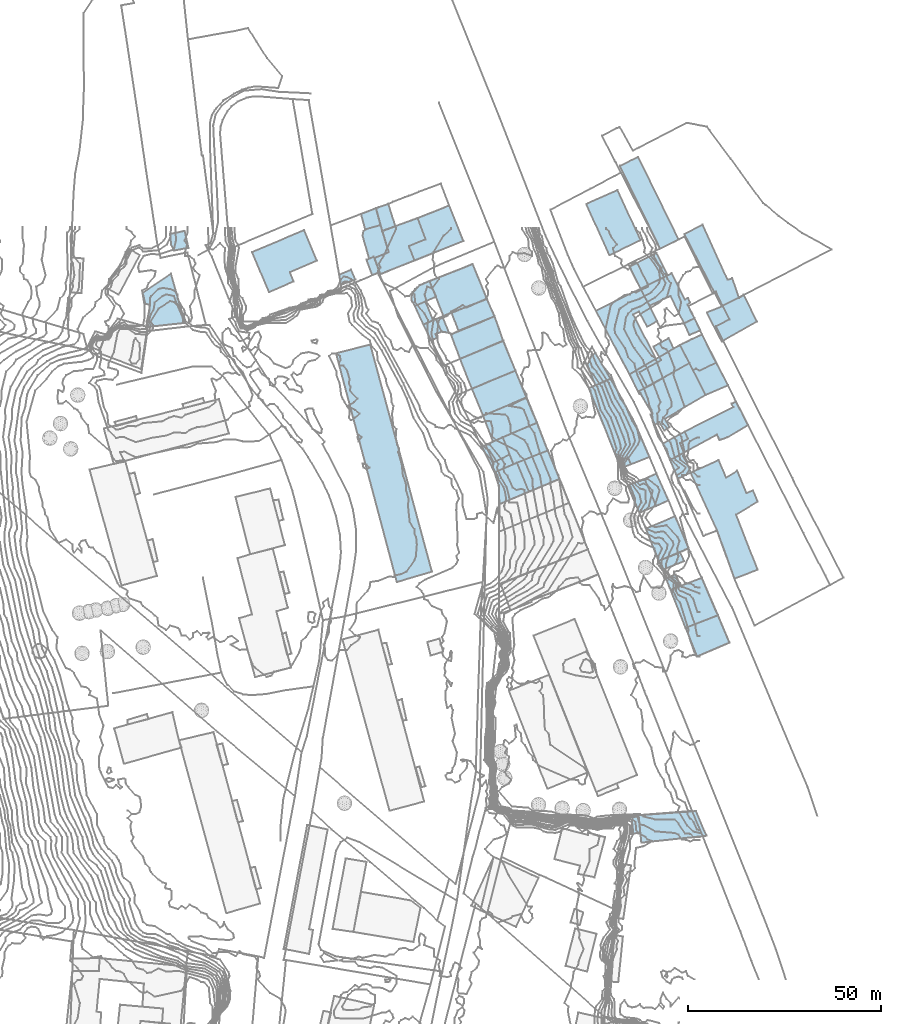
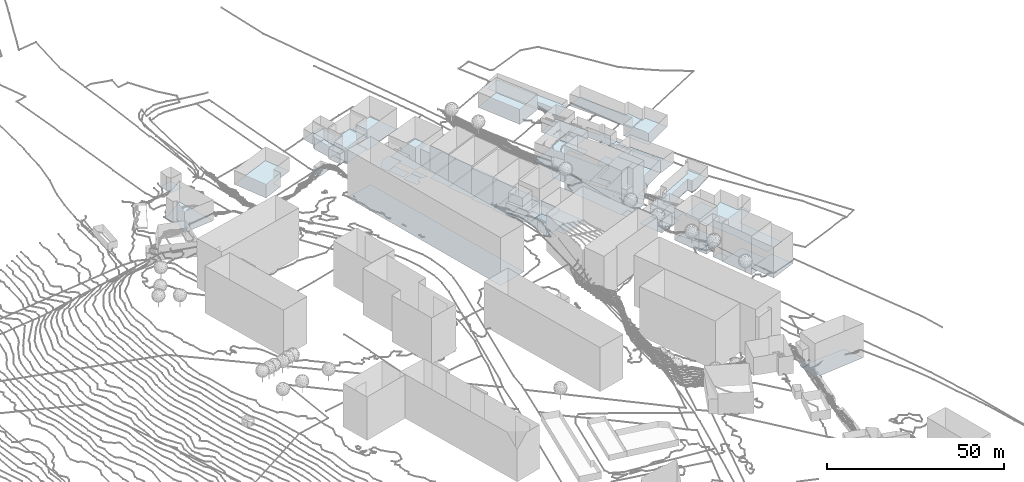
# Not in any storey, part 25 of 419: 54 footings.
"""IFC2X3 model written with IfcOpenShell, lengths in metres."""

from ifc_helpers import new_model, si_unit, frame, origin_with_axes, place, context, subcontext, project, faceted_brep, element, save


model = new_model("IFC2X3")

# Units and contexts
model_context = context("Model", 3, precision=1e-05, world=origin_with_axes())
body_context = subcontext(model_context, "Body", "Model", "MODEL_VIEW")
ifc_project = project(units=[si_unit("AREAUNIT", "SQUARE_METRE"), si_unit("LENGTHUNIT", "METRE")], contexts=[model_context])

# Footings
footing_1_placement = place(None, frame((892.1920204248, 1024.3976909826, 92.1908016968), z_axis=(0.0, 0.0, 1.0), x_axis=(1.0, 0.0, 0.0)))
element("IfcFooting", 1, at=footing_1_placement, Name="Sol 0", PredefinedType="STRIP_FOOTING", context=body_context, shape_type="Brep", body=[
    faceted_brep([(10.4, -0.7000000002, 0.0), (1.5, -4.2000000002, 0.0), (0.0, 0.0, 0.0), (11.2000000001, 10.2999999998, 0.0), (13.3, 4.7999999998, 0.0), (8.9, 3.0999999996, 0.0), (3.7000000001, 1.5, 0.0), (2.0, 7.0, 0.0)], [[[0, 1, 2]], [[3, 4, 5]], [[6, 7, 3]], [[0, 2, 6]], [[6, 3, 5]], [[5, 0, 6]]]),
])
footing_2_placement = place(None, frame((882.1920204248, 999.5976909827, 97.1549987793), z_axis=(0.0, 0.0, 1.0), x_axis=(1.0, 0.0, 0.0)))
element("IfcFooting", 2, at=footing_2_placement, Name="Sol 0", PredefinedType="STRIP_FOOTING", context=body_context, shape_type="Brep", body=[
    faceted_brep([(8.9, 2.2999999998, 0.0), (24.9, -56.7000000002, 0.0), (15.8, -59.4000000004, 0.0), (0.0, 0.0, 0.0)], [[[0, 1, 2]], [[2, 3, 0]]]),
])
footing_3_placement = place(None, frame((947.4920204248, 996.6976909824, 83.0450018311), z_axis=(0.0, 0.0, 1.0), x_axis=(1.0, 0.0, 0.0)))
element("IfcFooting", 3, at=footing_3_placement, Name="Sol 0", PredefinedType="STRIP_FOOTING", context=body_context, shape_type="Brep", body=[
    faceted_brep([(6.0, -3.7000000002, 0.0), (2.1, -5.3999999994, 0.0), (0.0, 0.0, 0.0), (1.1, 2.4000000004, 0.0), (2.1, 3.0, 0.0)], [[[0, 1, 2]], [[3, 4, 0]], [[0, 2, 3]]]),
])
footing_4_placement = place(None, frame((962.6920204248, 954.0976909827, 81.8764016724), z_axis=(0.0, 0.0, 1.0), x_axis=(1.0, 0.0, 0.0)))
element("IfcFooting", 4, at=footing_4_placement, Name="Sol 0", PredefinedType="STRIP_FOOTING", context=body_context, shape_type="Brep", body=[
    faceted_brep([(0.0, 0.0, 0.0), (7.6, 3.2000000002, 0.0), (11.1, -5.1000000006, 0.0), (3.3, -8.4000000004, 0.0)], [[[0, 1, 2]], [[2, 3, 0]]]),
])
footing_5_placement = place(None, frame((974.2920204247, 968.5976909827, 77.5850028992), z_axis=(0.0, 0.0, 1.0), x_axis=(1.0, 0.0, 0.0)))
element("IfcFooting", 5, at=footing_5_placement, Name="Sol 0", PredefinedType="STRIP_FOOTING", context=body_context, shape_type="Brep", body=[
    faceted_brep([(11.8, -10.9000000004, 0.0), (17.4, -25.2000000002, 0.0), (11.4, -27.5, 0.0), (16.2000000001, -4.6000000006, 0.0), (17.4, -7.5, 0.0), (9.2000000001, -1.2999999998, 0.0), (12.1000000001, 0.5, 0.0), (14.5, -5.2999999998, 0.0), (0.0, 0.0, 0.0), (7.3, 3.2999999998, 0.0), (6.9, -15.0, 0.0)], [[[0, 1, 2]], [[3, 4, 0]], [[5, 6, 7]], [[8, 9, 5]], [[0, 2, 10]], [[7, 3, 0]], [[8, 5, 7]], [[0, 10, 8]], [[8, 7, 0]]]),
])
footing_6_placement = place(None, frame((912.0920204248, 1004.4976909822, 90.4650001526), z_axis=(0.0, 0.0, 1.0), x_axis=(1.0, 0.0, 0.0)))
element("IfcFooting", 6, at=footing_6_placement, Name="Sol 0", PredefinedType="STRIP_FOOTING", context=body_context, shape_type="Brep", body=[
    faceted_brep([(13.5, -1.5999999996, 0.0), (2.3, -6.2999999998, 0.0), (0.0, 0.0, 0.0), (11.3, 4.7000000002, 0.0)], [[[0, 1, 2]], [[2, 3, 0]]]),
])
footing_7_placement = place(None, frame((912.1920204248, 1010.1976909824, 90.6355996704), z_axis=(0.0, 0.0, 1.0), x_axis=(1.0, 0.0, 0.0)))
element("IfcFooting", 7, at=footing_7_placement, Name="Sol 0", PredefinedType="STRIP_FOOTING", context=body_context, shape_type="Brep", body=[
    faceted_brep([(9.2000000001, 3.5, 0.0), (11.2000000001, -1.0, 0.0), (1.8, -4.7000000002, 0.0), (0.0, 0.0, 0.0)], [[[0, 1, 2]], [[2, 3, 0]]]),
])
footing_8_placement = place(None, frame((906.4920204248, 1018.3976909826, 90.8884008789), z_axis=(0.0, 0.0, 1.0), x_axis=(1.0, 0.0, 0.0)))
element("IfcFooting", 8, at=footing_8_placement, Name="Sol 0", PredefinedType="STRIP_FOOTING", context=body_context, shape_type="Brep", body=[
    faceted_brep([(11.2, 4.4000000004, 0.0), (14.9, -4.7000000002, 0.0), (3.6, -9.0999999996, 0.0), (0.0, 0.0, 0.0)], [[[0, 1, 2]], [[2, 3, 0]]]),
])
footing_9_placement = place(None, frame((888.6920204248, 1035.7976909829, 93.0879974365), z_axis=(0.0, 0.0, 1.0), x_axis=(1.0, 0.0, 0.0)))
element("IfcFooting", 9, at=footing_9_placement, Name="Sol 0", PredefinedType="STRIP_FOOTING", context=body_context, shape_type="Brep", body=[
    faceted_brep([(5.1, -2.9000000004, 0.0), (1.1, -4.0, 0.0), (0.0, 0.0, 0.0), (3.9, 1.5, 0.0)], [[[0, 1, 2]], [[2, 3, 0]]]),
])
footing_10_placement = place(None, frame((964.5920204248, 1001.2976909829, 78.8149993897), z_axis=(0.0, 0.0, 1.0), x_axis=(1.0, 0.0, 0.0)))
element("IfcFooting", 10, at=footing_10_placement, Name="Sol 0", PredefinedType="STRIP_FOOTING", context=body_context, shape_type="Brep", body=[
    faceted_brep([(4.0, 2.1999999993, 0.0), (5.3, -0.5, 0.0), (1.6, -2.6000000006, 0.0), (0.0, 0.0, 0.0)], [[[0, 1, 2]], [[2, 3, 0]]]),
])
footing_11_placement = place(None, frame((889.0920204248, 1030.1976909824, 92.8774974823), z_axis=(0.0, 0.0, 1.0), x_axis=(1.0, 0.0, 0.0)))
element("IfcFooting", 11, at=footing_11_placement, Name="Sol 0", PredefinedType="STRIP_FOOTING", context=body_context, shape_type="Brep", body=[
    faceted_brep([(6.8, -4.2999999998, 0.0), (3.1, -5.7999999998, 0.0), (2.9, -5.5, 0.0), (0.7, 1.6000000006, 0.0), (4.7, 2.7000000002, 0.0), (0.0, 0.0, 0.0), (0.2, 1.1000000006, 0.0), (1.7, -6.0, 0.0)], [[[0, 1, 2]], [[3, 4, 0]], [[5, 6, 3]], [[2, 7, 5]], [[3, 0, 2]], [[2, 5, 3]]]),
])
footing_12_placement = place(None, frame((892.5920204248, 1037.2976909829, 92.9800033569), z_axis=(0.0, 0.0, 1.0), x_axis=(1.0, 0.0, 0.0)))
element("IfcFooting", 12, at=footing_12_placement, Name="Sol 0", PredefinedType="STRIP_FOOTING", context=body_context, shape_type="Brep", body=[
    faceted_brep([(5.0, -4.7000000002, 0.0), (1.6, -5.9000000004, 0.0), (0.0, 0.0, 0.0), (3.2, 1.0999999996, 0.0)], [[[0, 1, 2]], [[2, 3, 0]]]),
])
footing_13_placement = place(None, frame((971.4920204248, 1001.7976909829, 78.444997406), z_axis=(0.0, 0.0, 1.0), x_axis=(1.0, 0.0, 0.0)))
element("IfcFooting", 13, at=footing_13_placement, Name="Sol 0", PredefinedType="STRIP_FOOTING", context=body_context, shape_type="Brep", body=[
    faceted_brep([(12.5, -10.5, 0.0), (6.7, -13.0, 0.0), (3.4, -6.5, 0.0), (0.0, 0.0, 0.0), (5.7999999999, 2.6999999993, 0.0)], [[[0, 1, 2]], [[3, 4, 0]], [[0, 2, 3]]]),
])
footing_14_placement = place(None, frame((957.9920204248, 965.2976909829, 82.3867994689), z_axis=(0.0, 0.0, 1.0), x_axis=(1.0, 0.0, 0.0)))
element("IfcFooting", 14, at=footing_14_placement, Name="Sol 0", PredefinedType="STRIP_FOOTING", context=body_context, shape_type="Brep", body=[
    faceted_brep([(0.0, 0.0, 0.0), (4.4, 1.6999999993, 0.0), (7.2999999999, -5.3000000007, 0.0), (3.0, -7.1000000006, 0.0)], [[[0, 1, 2]], [[2, 3, 0]]]),
])
footing_15_placement = place(None, frame((914.3920204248, 998.1976909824, 90.1960023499), z_axis=(0.0, 0.0, 1.0), x_axis=(1.0, 0.0, 0.0)))
element("IfcFooting", 15, at=footing_15_placement, Name="Sol 0", PredefinedType="STRIP_FOOTING", context=body_context, shape_type="Brep", body=[
    faceted_brep([(14.3999999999, -3.0999999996, 0.0), (3.1, -7.7999999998, 0.0), (0.0, 0.0, 0.0), (11.2, 4.7000000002, 0.0)], [[[0, 1, 2]], [[2, 3, 0]]]),
])
footing_16_placement = place(None, frame((972.9920204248, 928.2976909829, 84.2059982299), z_axis=(0.0, 0.0, 1.0), x_axis=(1.0, 0.0, 0.0)))
element("IfcFooting", 16, at=footing_16_placement, Name="Sol 0", PredefinedType="STRIP_FOOTING", context=body_context, shape_type="Brep", body=[
    faceted_brep([(0.0, 0.0, 0.0), (8.4, 3.2999999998, 0.0), (11.4, -3.8000000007, 0.0), (3.0, -7.4000000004, 0.0)], [[[0, 1, 2]], [[2, 3, 0]]]),
])
footing_17_placement = place(None, frame((882.9920204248, 1019.9976909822, 93.1930023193), z_axis=(0.0, 0.0, 1.0), x_axis=(1.0, 0.0, 0.0)))
element("IfcFooting", 17, at=footing_17_placement, Name="Sol 0", PredefinedType="STRIP_FOOTING", context=body_context, shape_type="Brep", body=[
    faceted_brep([(4.2, -1.1999999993, 0.0), (0.5, -2.5999999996, 0.0), (0.0, 0.0, 0.0), (3.1, 1.3000000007, 0.0)], [[[0, 1, 2]], [[2, 3, 0]]]),
])
footing_18_placement = place(None, frame((972.6920204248, 1030.5976909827, 78.3390022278), z_axis=(0.0, 0.0, 1.0), x_axis=(1.0, 0.0, 0.0)))
element("IfcFooting", 18, at=footing_18_placement, Name="Sol 0", PredefinedType="STRIP_FOOTING", context=body_context, shape_type="Brep", body=[
    faceted_brep([(9.7000000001, -27.9000000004, 0.0), (5.8, -20.4000000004, 0.0), (9.7000000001, -18.7999999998, 0.0), (15.4, -15.7999999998, 0.0), (18.8, -22.7000000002, 0.0), (11.2000000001, -11.9000000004, 0.0), (12.4, -11.5, 0.0), (14.2000000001, -16.6000000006, 0.0), (0.0, 0.0, 0.0), (4.7000000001, 2.3999999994, 0.0)], [[[0, 1, 2]], [[3, 4, 0]], [[5, 6, 7]], [[8, 9, 5]], [[7, 3, 0]], [[8, 5, 7]], [[7, 0, 2]], [[2, 8, 7]]]),
])
footing_19_placement = place(None, frame((961.2920204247, 1016.3976909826, 78.4847021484), z_axis=(0.0, 0.0, 1.0), x_axis=(1.0, 0.0, 0.0)))
element("IfcFooting", 19, at=footing_19_placement, Name="Sol 0", PredefinedType="STRIP_FOOTING", context=body_context, shape_type="Brep", body=[
    faceted_brep([(12.2000000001, -4.0999999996, 0.0), (14.0, -7.7000000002, 0.0), (11.3, -9.0, 0.0), (12.3, -2.4000000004, 0.0), (12.8, -3.5999999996, 0.0), (0.0, 0.0, 0.0), (8.1000000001, 4.0, 0.0), (11.5, -2.7999999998, 0.0), (7.8, -1.9000000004, 0.0), (2.3, -4.4000000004, 0.0)], [[[0, 1, 2]], [[3, 4, 0]], [[5, 6, 7]], [[8, 9, 5]], [[0, 2, 8]], [[7, 3, 0]], [[8, 5, 7]], [[7, 0, 8]]]),
])
footing_20_placement = place(None, frame((921.0920204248, 975.7976909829, 91.6154002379), z_axis=(0.0, 0.0, 1.0), x_axis=(1.0, 0.0, 0.0)))
element("IfcFooting", 20, at=footing_20_placement, Name="Sol 0", PredefinedType="STRIP_FOOTING", context=body_context, shape_type="Brep", body=[
    faceted_brep([(4.4, 2.0, 0.0), (6.2, -2.5, 0.0), (2.0, -4.5, 0.0), (0.0, 0.0, 0.0)], [[[0, 1, 2]], [[2, 3, 0]]]),
])
footing_21_placement = place(None, frame((908.1920204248, 1008.4976909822, 90.8799972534), z_axis=(0.0, 0.0, 1.0), x_axis=(1.0, 0.0, 0.0)))
element("IfcFooting", 21, at=footing_21_placement, Name="Sol 0", PredefinedType="STRIP_FOOTING", context=body_context, shape_type="Brep", body=[
    faceted_brep([(3.4, -3.5999999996, 0.0), (1.4, -3.2999999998, 0.0), (0.0, 0.0, 0.0), (1.6, 0.7000000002, 0.0)], [[[0, 1, 2]], [[2, 3, 0]]]),
])
footing_22_placement = place(None, frame((960.9920204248, 994.6976909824, 78.6699987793), z_axis=(0.0, 0.0, 1.0), x_axis=(1.0, 0.0, 0.0)))
element("IfcFooting", 22, at=footing_22_placement, Name="Sol 0", PredefinedType="STRIP_FOOTING", context=body_context, shape_type="Brep", body=[
    faceted_brep([(10.5, 7.1000000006, 0.0), (13.0, 2.4000000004, 0.0), (2.1, -3.7999999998, 0.0), (5.6, 3.1000000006, 0.0), (5.2, 4.0, 0.0), (0.0, 0.0, 0.0)], [[[0, 1, 2]], [[3, 4, 0]], [[2, 5, 3]], [[3, 0, 2]]]),
])
footing_23_placement = place(None, frame((960.8920204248, 989.7976909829, 78.5979980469), z_axis=(0.0, 0.0, 1.0), x_axis=(1.0, 0.0, 0.0)))
element("IfcFooting", 23, at=footing_23_placement, Name="Sol 0", PredefinedType="STRIP_FOOTING", context=body_context, shape_type="Brep", body=[
    faceted_brep([(13.1, 7.2999999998, 0.0), (17.2999999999, -1.0, 0.0), (6.7, -7.2000000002, 0.0), (3.5, -5.9000000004, 0.0), (0.0, 0.0, 0.0), (4.1, -8.7000000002, 0.0), (3.0, -6.1000000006, 0.0), (7.8999999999, -9.4000000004, 0.0), (6.6, -10.2000000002, 0.0), (5.2999999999, -8.1000000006, 0.0)], [[[0, 1, 2]], [[3, 4, 0]], [[5, 6, 3]], [[7, 8, 9]], [[3, 0, 2]], [[9, 5, 3]], [[2, 7, 9]], [[9, 3, 2]]]),
])
footing_24_placement = place(None, frame((967.8920204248, 941.1976909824, 82.0823989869), z_axis=(0.0, 0.0, 1.0), x_axis=(1.0, 0.0, 0.0)))
element("IfcFooting", 24, at=footing_24_placement, Name="Sol 0", PredefinedType="STRIP_FOOTING", context=body_context, shape_type="Brep", body=[
    faceted_brep([(2.5, 1.0, 0.0), (3.7999999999, -2.0999999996, 0.0), (1.2, -3.0, 0.0), (0.0, 0.0, 0.0)], [[[0, 1, 2]], [[2, 3, 0]]]),
])
footing_25_placement = place(None, frame((972.5920204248, 1007.3976909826, 78.3960006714), z_axis=(0.0, 0.0, 1.0), x_axis=(1.0, 0.0, 0.0)))
element("IfcFooting", 25, at=footing_25_placement, Name="Sol 0", PredefinedType="STRIP_FOOTING", context=body_context, shape_type="Brep", body=[
    faceted_brep([(2.7, 1.2999999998, 0.0), (4.2, -1.7999999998, 0.0), (1.4, -3.0, 0.0), (0.0, 0.0, 0.0)], [[[0, 1, 2]], [[2, 3, 0]]]),
])
footing_26_placement = place(None, frame((955.8920204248, 1048.2976909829, 79.4224011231), z_axis=(0.0, 0.0, 1.0), x_axis=(1.0, 0.0, 0.0)))
element("IfcFooting", 26, at=footing_26_placement, Name="Sol 0", PredefinedType="STRIP_FOOTING", context=body_context, shape_type="Brep", body=[
    faceted_brep([(4.7999999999, 2.2999999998, 0.0), (15.2999999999, -19.1000000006, 0.0), (10.5, -21.5, 0.0), (0.0, 0.0, 0.0)], [[[0, 1, 2]], [[2, 3, 0]]]),
])
footing_27_placement = place(None, frame((967.0920204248, 976.1976909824, 78.0299987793), z_axis=(0.0, 0.0, 1.0), x_axis=(1.0, 0.0, 0.0)))
element("IfcFooting", 27, at=footing_27_placement, Name="Sol 0", PredefinedType="STRIP_FOOTING", context=body_context, shape_type="Brep", body=[
    faceted_brep([(4.5, 0.1000000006, 0.0), (5.4, -2.3999999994, 0.0), (1.9, -4.2999999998, 0.0), (5.7, 3.1000000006, 0.0), (6.5, 1.2000000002, 0.0), (0.0, 0.0, 0.0)], [[[0, 1, 2]], [[3, 4, 0]], [[2, 5, 3]], [[3, 0, 2]]]),
])
footing_28_placement = place(None, frame((947.1920204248, 1038.3976909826, 82.0492008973), z_axis=(0.0, 0.0, 1.0), x_axis=(1.0, 0.0, 0.0)))
element("IfcFooting", 28, at=footing_28_placement, Name="Sol 0", PredefinedType="STRIP_FOOTING", context=body_context, shape_type="Brep", body=[
    faceted_brep([(0.0, 0.0, 0.0), (8.1, 3.5999999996, 0.0), (14.1, -9.4000000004, 0.0), (6.0, -13.2999999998, 0.0)], [[[0, 1, 2]], [[2, 3, 0]]]),
])
footing_29_placement = place(None, frame((965.9920204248, 945.6976909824, 81.9380035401), z_axis=(0.0, 0.0, 1.0), x_axis=(1.0, 0.0, 0.0)))
element("IfcFooting", 29, at=footing_29_placement, Name="Sol 0", PredefinedType="STRIP_FOOTING", context=body_context, shape_type="Brep", body=[
    faceted_brep([(1.0, -2.2999999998, 0.0), (0.0, 0.0, 0.0), (5.6, 2.2000000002, 0.0), (6.6, -0.0999999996, 0.0)], [[[0, 1, 2]], [[2, 3, 0]]]),
])
footing_30_placement = place(None, frame((920.0920204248, 975.4976909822, 92.5652994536), z_axis=(0.0, 0.0, 1.0), x_axis=(1.0, 0.0, 0.0)))
element("IfcFooting", 30, at=footing_30_placement, Name="Sol 0", PredefinedType="STRIP_FOOTING", context=body_context, shape_type="Brep", body=[
    faceted_brep([(7.2, -2.1999999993, 0.0), (8.2, -4.6999999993, 0.0), (3.3, -6.7999999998, 0.0), (0.0, 0.0, 0.0), (1.0, 0.3000000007, 0.0), (3.0, -4.1999999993, 0.0)], [[[0, 1, 2]], [[3, 4, 5]], [[5, 0, 2]], [[2, 3, 5]]]),
])
footing_31_placement = place(None, frame((955.4920204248, 971.4976909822, 82.5692007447), z_axis=(0.0, 0.0, 1.0), x_axis=(1.0, 0.0, 0.0)))
element("IfcFooting", 31, at=footing_31_placement, Name="Sol 0", PredefinedType="STRIP_FOOTING", context=body_context, shape_type="Brep", body=[
    faceted_brep([(0.7999999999, -1.6999999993, 0.0), (0.0, 0.0, 0.0), (2.6, 1.0, 0.0), (3.2999999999, -0.6999999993, 0.0)], [[[0, 1, 2]], [[2, 3, 0]]]),
])
footing_32_placement = place(None, frame((958.3920204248, 994.1976909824, 79.5119995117), z_axis=(0.0, 0.0, 1.0), x_axis=(1.0, 0.0, 0.0)))
element("IfcFooting", 32, at=footing_32_placement, Name="Sol 0", PredefinedType="STRIP_FOOTING", context=body_context, shape_type="Brep", body=[
    faceted_brep([(0.0, 0.0, 0.0), (7.7999999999, 4.5, 0.0), (8.2, 3.6000000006, 0.0), (2.5, -4.3999999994, 0.0), (2.8999999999, -4.8999999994, 0.0), (2.6, -5.2000000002, 0.0), (2.6, 0.5, 0.0), (4.7, -3.2999999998, 0.0)], [[[0, 1, 2]], [[3, 4, 5]], [[6, 7, 3]], [[0, 2, 6]], [[3, 5, 0]], [[0, 6, 3]]]),
])
footing_33_placement = place(None, frame((901.7920204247, 1013.4976909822, 91.6666029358), z_axis=(0.0, 0.0, 1.0), x_axis=(1.0, 0.0, 0.0)))
element("IfcFooting", 33, at=footing_33_placement, Name="Sol 0", PredefinedType="STRIP_FOOTING", context=body_context, shape_type="Brep", body=[
    faceted_brep([(6.4, 0.8000000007, 0.0), (0.9, -1.5999999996, 0.0), (0.0, 0.0, 0.0), (2.1000000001, 3.8000000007, 0.0), (4.7000000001, 4.9000000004, 0.0), (0.1000000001, 1.5, 0.0)], [[[0, 1, 2]], [[3, 4, 0]], [[2, 5, 3]], [[3, 0, 2]]]),
])
footing_34_placement = place(None, frame((968.9920204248, 971.8976909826, 78.5275988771), z_axis=(0.0, 0.0, 1.0), x_axis=(1.0, 0.0, 0.0)))
element("IfcFooting", 34, at=footing_34_placement, Name="Sol 0", PredefinedType="STRIP_FOOTING", context=body_context, shape_type="Brep", body=[
    faceted_brep([(0.0, 0.0, 0.0), (3.5, 1.9000000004, 0.0), (5.2999999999, -3.2999999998, 0.0), (2.0, -4.7999999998, 0.0)], [[[0, 1, 2]], [[2, 3, 0]]]),
])
footing_35_placement = place(None, frame((904.8920204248, 1007.0976909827, 90.8559997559), z_axis=(0.0, 0.0, 1.0), x_axis=(1.0, 0.0, 0.0)))
element("IfcFooting", 35, at=footing_35_placement, Name="Sol 0", PredefinedType="STRIP_FOOTING", context=body_context, shape_type="Brep", body=[
    faceted_brep([(3.5, -3.5, 0.0), (2.0, -4.1000000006, 0.0), (0.0, 0.0, 0.0), (3.2999999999, 1.3999999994, 0.0), (4.7, -1.9000000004, 0.0), (3.2, -2.5, 0.0)], [[[0, 1, 2]], [[3, 4, 5]], [[5, 0, 2]], [[2, 3, 5]]]),
])
footing_36_placement = place(None, frame((962.3920204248, 966.9976909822, 82.1699981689), z_axis=(0.0, 0.0, 1.0), x_axis=(1.0, 0.0, 0.0)))
element("IfcFooting", 36, at=footing_36_placement, Name="Sol 0", PredefinedType="STRIP_FOOTING", context=body_context, shape_type="Brep", body=[
    faceted_brep([(0.0, 0.0, 0.0), (3.0, 1.4000000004, 0.0), (6.2, -5.5999999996, 0.0), (2.8999999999, -7.0, 0.0)], [[[0, 1, 2]], [[2, 3, 0]]]),
])
footing_37_placement = place(None, frame((839.0920204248, 1030.5976909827, 97.3080024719), z_axis=(0.0, 0.0, 1.0), x_axis=(1.0, 0.0, 0.0)))
element("IfcFooting", 37, at=footing_37_placement, Name="Sol 0", PredefinedType="STRIP_FOOTING", context=body_context, shape_type="Brep", body=[
    faceted_brep([(0.3, -2.7999999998, 0.0), (0.0, 0.0, 0.0), (3.8, 0.7999999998, 0.0), (4.8, -3.6000000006, 0.0), (1.0, -4.2999999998, 0.0)], [[[0, 1, 2]], [[3, 4, 0]], [[0, 2, 3]]]),
])
footing_38_placement = place(None, frame((923.3920204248, 968.6976909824, 92.3469001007), z_axis=(0.0, 0.0, 1.0), x_axis=(1.0, 0.0, 0.0)))
element("IfcFooting", 38, at=footing_38_placement, Name="Sol 0", PredefinedType="STRIP_FOOTING", context=body_context, shape_type="Brep", body=[
    faceted_brep([(8.8999999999, -5.0, 0.0), (1.2, -8.2999999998, 0.0), (1.1, -3.3999999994, 0.0), (0.0, 0.0, 0.0), (5.7999999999, 2.5, 0.0)], [[[0, 1, 2]], [[3, 4, 0]], [[0, 2, 3]]]),
])
footing_39_placement = place(None, frame((890.0920204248, 1023.8976909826, 92.97780159), z_axis=(0.0, 0.0, 1.0), x_axis=(1.0, 0.0, 0.0)))
element("IfcFooting", 39, at=footing_39_placement, Name="Sol 0", PredefinedType="STRIP_FOOTING", context=body_context, shape_type="Brep", body=[
    faceted_brep([(1.9, 0.7999999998, 0.0), (3.4, -3.2000000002, 0.0), (1.5, -4.0, 0.0), (0.0, 0.0, 0.0)], [[[0, 1, 2]], [[2, 3, 0]]]),
])
footing_40_placement = place(None, frame((929.1920204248, 971.1976909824, 88.7488006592), z_axis=(0.0, 0.0, 1.0), x_axis=(1.0, 0.0, 0.0)))
element("IfcFooting", 40, at=footing_40_placement, Name="Sol 0", PredefinedType="STRIP_FOOTING", context=body_context, shape_type="Brep", body=[
    faceted_brep([(11.1, -4.2000000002, 0.0), (3.1, -7.5, 0.0), (0.0, 0.0, 0.0), (8.0, 3.2000000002, 0.0)], [[[0, 1, 2]], [[2, 3, 0]]]),
])
footing_41_placement = place(None, frame((920.3920204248, 983.3976909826, 89.4335995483), z_axis=(0.0, 0.0, 1.0), x_axis=(1.0, 0.0, 0.0)))
element("IfcFooting", 41, at=footing_41_placement, Name="Sol 0", PredefinedType="STRIP_FOOTING", context=body_context, shape_type="Brep", body=[
    faceted_brep([(14.0, -1.7999999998, 0.0), (2.6, -6.7000000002, 0.0), (0.0, 0.0, 0.0), (11.2999999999, 4.7999999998, 0.0)], [[[0, 1, 2]], [[2, 3, 0]]]),
])
footing_42_placement = place(None, frame((958.7920204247, 874.6976909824, 87.3464007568), z_axis=(0.0, 0.0, 1.0), x_axis=(1.0, 0.0, 0.0)))
element("IfcFooting", 42, at=footing_42_placement, Name="Sol 0", PredefinedType="STRIP_FOOTING", context=body_context, shape_type="Brep", body=[
    faceted_brep([(0.4, 4.7000000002, 0.0), (2.0, 4.9000000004, 0.0), (2.4, 0.5, 0.0), (0.0, 0.0, 0.0)], [[[0, 1, 2]], [[2, 3, 0]]]),
])
footing_43_placement = place(None, frame((958.4920204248, 1022.0976909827, 79.365800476), z_axis=(0.0, 0.0, 1.0), x_axis=(1.0, 0.0, 0.0)))
element("IfcFooting", 43, at=footing_43_placement, Name="Sol 0", PredefinedType="STRIP_FOOTING", context=body_context, shape_type="Brep", body=[
    faceted_brep([(2.7999999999, -5.7000000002, 0.0), (0.0, 0.0, 0.0), (6.9, 3.5999999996, 0.0), (9.7999999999, -2.2000000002, 0.0)], [[[0, 1, 2]], [[2, 3, 0]]]),
])
footing_44_placement = place(None, frame((971.5920204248, 976.2976909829, 77.8119995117), z_axis=(0.0, 0.0, 1.0), x_axis=(1.0, 0.0, 0.0)))
element("IfcFooting", 44, at=footing_44_placement, Name="Sol 0", PredefinedType="STRIP_FOOTING", context=body_context, shape_type="Brep", body=[
    faceted_brep([(14.5, 10.7999999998, 0.0), (17.6, 4.6999999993, 0.0), (12.3, 1.5, 0.0), (13.8, 9.3999999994, 0.0), (13.3, 10.1999999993, 0.0), (2.0, 1.0999999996, 0.0), (1.2, 3.0, 0.0), (0.9, -2.5, 0.0), (0.0, 0.0, 0.0), (10.2, 0.7999999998, 0.0), (9.5, 2.1999999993, 0.0)], [[[0, 1, 2]], [[3, 4, 0]], [[5, 6, 3]], [[7, 8, 5]], [[2, 9, 10]], [[3, 0, 2]], [[7, 5, 3]], [[3, 2, 10]], [[10, 7, 3]]]),
])
footing_45_placement = place(None, frame((902.6920204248, 1011.8976909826, 91.6327993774), z_axis=(0.0, 0.0, 1.0), x_axis=(1.0, 0.0, 0.0)))
element("IfcFooting", 45, at=footing_45_placement, Name="Sol 0", PredefinedType="STRIP_FOOTING", context=body_context, shape_type="Brep", body=[
    faceted_brep([(4.7000000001, -3.7000000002, 0.0), (2.2000000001, -4.7999999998, 0.0), (0.0, 0.0, 0.0), (2.7000000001, 1.2000000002, 0.0)], [[[0, 1, 2]], [[2, 3, 0]]]),
])
footing_46_placement = place(None, frame((901.0920204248, 1027.4976909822, 91.4766018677), z_axis=(0.0, 0.0, 1.0), x_axis=(1.0, 0.0, 0.0)))
element("IfcFooting", 46, at=footing_46_placement, Name="Sol 0", PredefinedType="STRIP_FOOTING", context=body_context, shape_type="Brep", body=[
    faceted_brep([(14.2, 1.3000000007, 0.0), (1.5, -3.7999999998, 0.0), (0.0, 0.0, 0.0), (2.3, 7.2000000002, 0.0), (10.5, 10.5, 0.0), (4.4, 1.7000000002, 0.0)], [[[0, 1, 2]], [[3, 4, 0]], [[0, 2, 5]], [[5, 3, 0]]]),
])
footing_47_placement = place(None, frame((947.8920204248, 990.5976909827, 82.4650024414), z_axis=(0.0, 0.0, 1.0), x_axis=(1.0, 0.0, 0.0)))
element("IfcFooting", 47, at=footing_47_placement, Name="Sol 0", PredefinedType="STRIP_FOOTING", context=body_context, shape_type="Brep", body=[
    faceted_brep([(7.6, -19.1000000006, 0.0), (0.0, 0.0, 0.0), (5.6, 2.3999999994, 0.0), (15.7, -17.9000000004, 0.0), (10.8999999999, -19.7999999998, 0.0), (10.2, -18.1000000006, 0.0), (11.5, -8.2000000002, 0.0)], [[[0, 1, 2]], [[3, 4, 5]], [[2, 6, 3]], [[5, 0, 2]], [[2, 3, 5]]]),
])
footing_48_placement = place(None, frame((949.6920204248, 1010.6976909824, 79.1320007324), z_axis=(0.0, 0.0, 1.0), x_axis=(1.0, 0.0, 0.0)))
element("IfcFooting", 48, at=footing_48_placement, Name="Sol 0", PredefinedType="STRIP_FOOTING", context=body_context, shape_type="Brep", body=[
    faceted_brep([(11.6, 5.7000000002, 0.0), (13.9, 1.2999999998, 0.0), (15.9, -2.7000000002, 0.0), (15.6, -12.5, 0.0), (8.7000000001, -16.5, 0.0), (0.0, 0.0, 0.0), (13.3, -4.2000000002, 0.0), (11.2000000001, -0.2000000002, 0.0), (9.7000000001, -1.0, 0.0)], [[[0, 1, 2]], [[3, 4, 5]], [[2, 6, 7]], [[8, 3, 5]], [[0, 2, 7]], [[8, 5, 0]], [[0, 7, 8]]]),
])
footing_49_placement = place(None, frame((925.4920204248, 977.7976909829, 89.0659988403), z_axis=(0.0, 0.0, 1.0), x_axis=(1.0, 0.0, 0.0)))
element("IfcFooting", 49, at=footing_49_placement, Name="Sol 0", PredefinedType="STRIP_FOOTING", context=body_context, shape_type="Brep", body=[
    faceted_brep([(8.9, 3.7999999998, 0.0), (11.7, -3.4000000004, 0.0), (3.7, -6.6000000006, 0.0), (2.7999999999, -7.0, 0.0), (0.0, 0.0, 0.0)], [[[0, 1, 2]], [[3, 4, 0]], [[0, 2, 3]]]),
])
footing_50_placement = place(None, frame((917.4920204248, 990.3976909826, 89.7562007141), z_axis=(0.0, 0.0, 1.0), x_axis=(1.0, 0.0, 0.0)))
element("IfcFooting", 50, at=footing_50_placement, Name="Sol 0", PredefinedType="STRIP_FOOTING", context=body_context, shape_type="Brep", body=[
    faceted_brep([(14.2, -2.2000000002, 0.0), (2.9, -7.0, 0.0), (0.0, 0.0, 0.0), (11.2999999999, 4.7000000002, 0.0)], [[[0, 1, 2]], [[2, 3, 0]]]),
])
footing_51_placement = place(None, frame((969.0920204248, 938.1976909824, 81.880997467), z_axis=(0.0, 0.0, 1.0), x_axis=(1.0, 0.0, 0.0)))
element("IfcFooting", 51, at=footing_51_placement, Name="Sol 0", PredefinedType="STRIP_FOOTING", context=body_context, shape_type="Brep", body=[
    faceted_brep([(0.0, 0.0, 0.0), (8.1, 3.1000000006, 0.0), (12.3, -6.5999999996, 0.0), (3.9, -9.8999999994, 0.0)], [[[0, 1, 2]], [[2, 3, 0]]]),
])
footing_52_placement = place(None, frame((831.9920204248, 1015.2976909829, 98.100199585), z_axis=(0.0, 0.0, 1.0), x_axis=(1.0, 0.0, 0.0)))
element("IfcFooting", 52, at=footing_52_placement, Name="Sol 0", PredefinedType="STRIP_FOOTING", context=body_context, shape_type="Brep", body=[
    faceted_brep([(7.2999999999, 5.0, 0.0), (11.0, -7.8000000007, 0.0), (0.9, -8.9000000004, 0.0), (0.7, -2.9000000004, 0.0), (0.0, 0.0, 0.0), (1.9, -3.1000000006, 0.0)], [[[0, 1, 2]], [[3, 4, 0]], [[0, 2, 5]], [[5, 3, 0]]]),
])
footing_53_placement = place(None, frame((860.3920204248, 1025.8976909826, 93.4082012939), z_axis=(0.0, 0.0, 1.0), x_axis=(1.0, 0.0, 0.0)))
element("IfcFooting", 53, at=footing_53_placement, Name="Sol 0", PredefinedType="STRIP_FOOTING", context=body_context, shape_type="Brep", body=[
    faceted_brep([(4.3999999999, -10.4000000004, 0.0), (0.0, 0.0, 0.0), (13.5, 5.7000000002, 0.0), (9.7999999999, -5.2000000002, 0.0), (10.7999999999, -7.5999999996, 0.0), (16.7999999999, -2.2000000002, 0.0)], [[[0, 1, 2]], [[3, 4, 0]], [[2, 5, 3]], [[3, 0, 2]]]),
])
footing_54_placement = place(None, frame((960.7920204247, 879.5976909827, 84.1680007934), z_axis=(0.0, 0.0, 1.0), x_axis=(1.0, 0.0, 0.0)))
element("IfcFooting", 54, at=footing_54_placement, Name="Sol 0", PredefinedType="STRIP_FOOTING", context=body_context, shape_type="Brep", body=[
    faceted_brep([(14.9, 1.0999999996, 0.0), (17.6000000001, -5.2999999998, 0.0), (0.7000000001, -7.1000000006, 0.0), (0.0, 0.0, 0.0)], [[[0, 1, 2]], [[2, 3, 0]]]),
])

save(model, "model.ifc")
